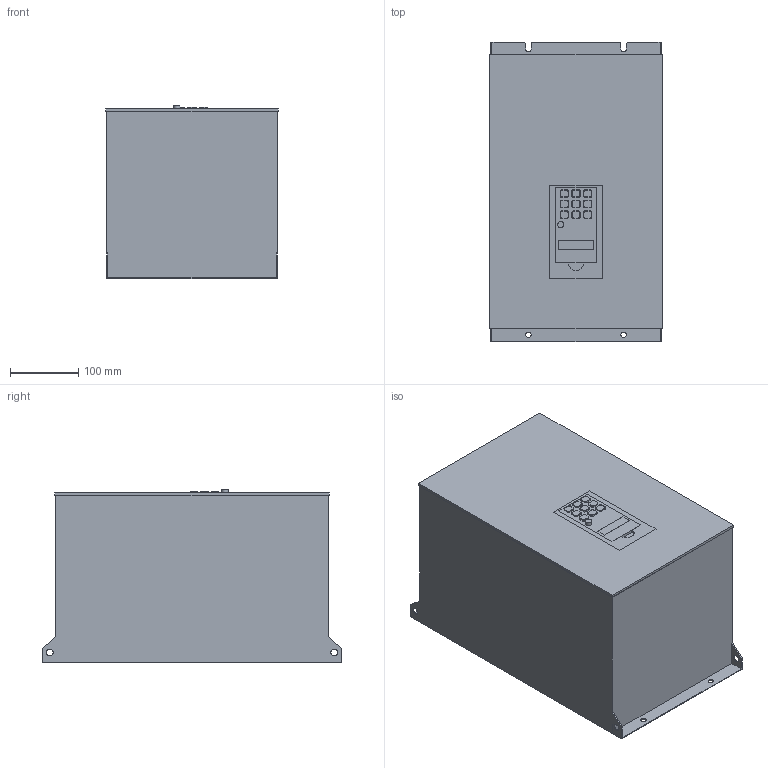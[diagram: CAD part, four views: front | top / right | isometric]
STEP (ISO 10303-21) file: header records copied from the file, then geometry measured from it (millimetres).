
FILE_DESCRIPTION(('STEP AP203'), '1');
FILE_NAME('Òîðìîçíîé ìîäóëü _ FCI-BU-200', '', ('UNSPECIFIED'), ('UNSPECIFIED'), 'C3D Converter', 'C3D Toolkit', '');
FILE_SCHEMA(('CONFIG_CONTROL_DESIGN'));
Length unit declared in the file: millimetre
Products named in the file (1): Тормозной модуль
Bounding box: 253 x 440 x 255 mm (x, y, z)
Volume: 25024353.5 mm3; surface area: 581270.9 mm2
Topology: 6 solids, 6 shells, 258 faces, 675 edges, 450 vertices
Faces by surface type: plane 164, cylinder 94
Full cylindrical faces by diameter (mm): 8 x2, 9.2 x1, 10 x4
Entity records: 10078 total; most frequent: CARTESIAN_POINT 1377, DIRECTION 1374, ORIENTED_EDGE 1336, EDGE_CURVE 668, LINE 480, VECTOR 480, VERTEX_POINT 450, AXIS2_PLACEMENT_3D 447
